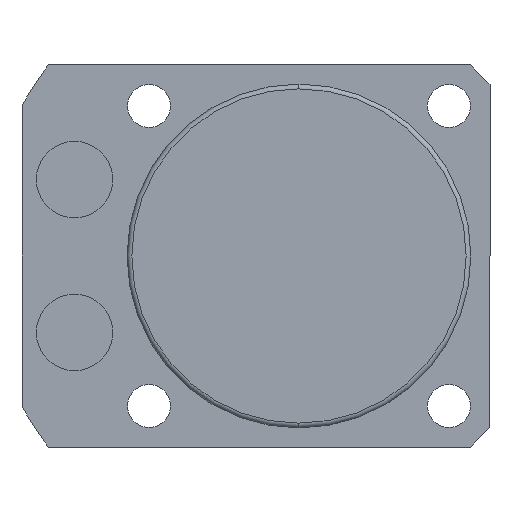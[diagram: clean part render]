
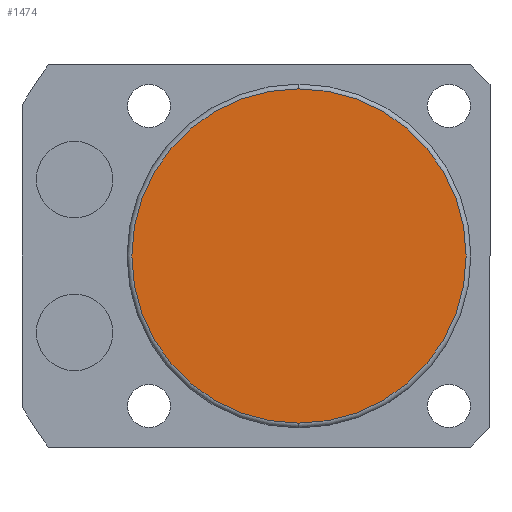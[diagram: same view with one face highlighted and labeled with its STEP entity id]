
A CAD part, front view. The second image highlights one B-rep face of the part: STEP entity #1474.
In plain terms, the highlighted planar face has unit normal (0, -1, 0).
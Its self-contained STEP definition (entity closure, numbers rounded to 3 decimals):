
#4 = DIRECTION ( 'NONE',  ( 0., 0., -1. ) ) ;
#24 = CIRCLE ( 'NONE', #164, 17.5 ) ;
#71 = EDGE_LOOP ( 'NONE', ( #2229, #718 ) ) ;
#141 = DIRECTION ( 'NONE',  ( 0., -1., 0. ) ) ;
#164 = AXIS2_PLACEMENT_3D ( 'NONE', #1266, #171, #4 ) ;
#171 = DIRECTION ( 'NONE',  ( 0., -1., 0. ) ) ;
#207 = VERTEX_POINT ( 'NONE', #2120 ) ;
#209 = CARTESIAN_POINT ( 'NONE',  ( 0., -110.5, -17.5 ) ) ;
#519 = FACE_OUTER_BOUND ( 'NONE', #71, .T. ) ;
#573 = CIRCLE ( 'NONE', #1665, 17.5 ) ;
#718 = ORIENTED_EDGE ( 'NONE', *, *, #2223, .T. ) ;
#1032 = DIRECTION ( 'NONE',  ( 0., -1., 0. ) ) ;
#1266 = CARTESIAN_POINT ( 'NONE',  ( 0., -110.5, 0. ) ) ;
#1346 = PLANE ( 'NONE',  #2040 ) ;
#1415 = DIRECTION ( 'NONE',  ( 0., 0., -1. ) ) ;
#1474 = ADVANCED_FACE ( 'NONE', ( #519 ), #1346, .T. ) ;
#1574 = CARTESIAN_POINT ( 'NONE',  ( 0., -110.5, 0. ) ) ;
#1665 = AXIS2_PLACEMENT_3D ( 'NONE', #1574, #141, #1415 ) ;
#1736 = DIRECTION ( 'NONE',  ( 0., 0., -1. ) ) ;
#1825 = EDGE_CURVE ( 'NONE', #1934, #207, #24, .T. ) ;
#1934 = VERTEX_POINT ( 'NONE', #209 ) ;
#2040 = AXIS2_PLACEMENT_3D ( 'NONE', #2303, #1032, #1736 ) ;
#2120 = CARTESIAN_POINT ( 'NONE',  ( 0., -110.5, 17.5 ) ) ;
#2223 = EDGE_CURVE ( 'NONE', #207, #1934, #573, .T. ) ;
#2229 = ORIENTED_EDGE ( 'NONE', *, *, #1825, .T. ) ;
#2303 = CARTESIAN_POINT ( 'NONE',  ( 0., -110.5, 0. ) ) ;
